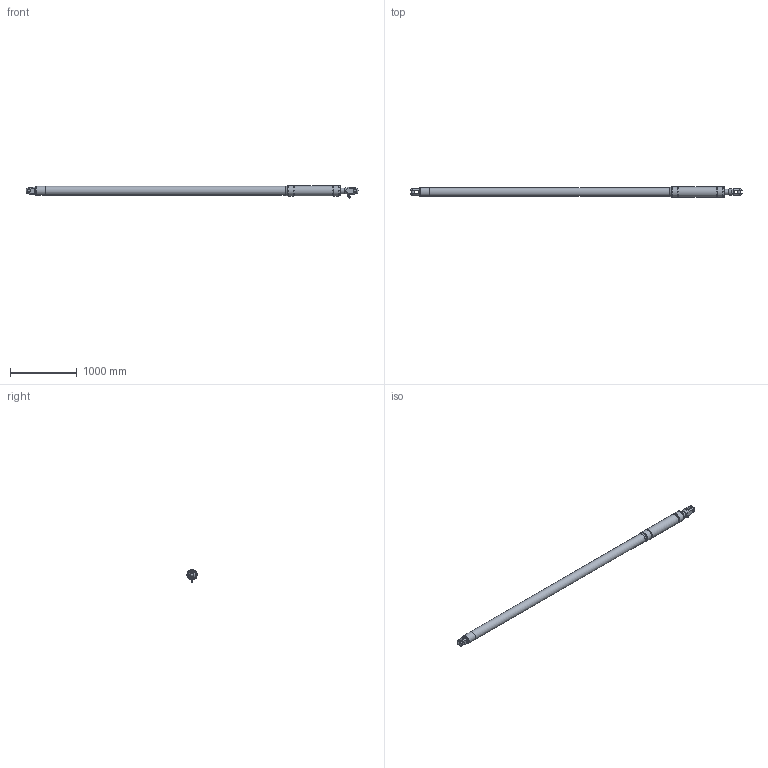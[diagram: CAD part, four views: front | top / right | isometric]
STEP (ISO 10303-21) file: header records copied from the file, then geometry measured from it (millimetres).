
FILE_DESCRIPTION(/* description */ (''),/* implementation_level */ '2;1');
FILE_NAME(/* name */ 'Q:\AA BRAND HYDRAULICS\HYDRAULICS FAMILY DIRECTORY\HYDRAULICS\CYLINDERS\VANGS\ALUMINIUM SINGLE ACTING - STAINLESS ON REQUEST (-0010 To -0150)\VSA-0115-S500-NP-71-L4900\VSA-0115-S500-NP-71-L4900 (Closed).stp',/* time_stamp */ '2018-04-03T10:31:20+01:00',/* author */ ('Lorena'),/* organization */ (''),/* preprocessor_version */ 'ST-DEVELOPER v17',/* originating_system */ 'Autodesk Inventor 2018',/* authorisation */ '');
FILE_SCHEMA (('AUTOMOTIVE_DESIGN { 1 0 10303 214 3 1 1 }'));
Length unit declared in the file: millimetre
Products named in the file (1): VSA-0115-S500-NP-71-L4900 (Closed)
Bounding box: 4991.37 x 155.4 x 188.45 mm (x, y, z)
Volume: 71287487.7 mm3; surface area: 2225758.1 mm2
Topology: 2 solids, 5 shells, 1673 faces, 4461 edges, 2956 vertices
Faces by surface type: plane 941, bspline 576, cylinder 88, cone 60, sphere 4, torus 4
Full cylindrical faces by diameter (mm): 5 x2, 8.1 x1, 9.9 x1, 10 x2, 11 x2, 12 x2, 13 x2, 14.662 x1, 15 x2, 15.25 x1, 15.662 x1, 16.662 x2, 18 x2, 19 x1, 19.11 x1, 20 x1, 21.4 x3, 24 x2, 27 x1, 28 x1, 34.9 x2, 34.93 x4, 43.625 x2, 60 x1, 62 x1, 84 x1, 135 x2, 150.8 x1, 152.4 x1, 155.4 x4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
Entity records: 60744 total; most frequent: CARTESIAN_POINT 21132, ORIENTED_EDGE 8912, DIRECTION 5763, EDGE_CURVE 4456, VERTEX_POINT 2957, LINE 2827, VECTOR 2827, EDGE_LOOP 1849
